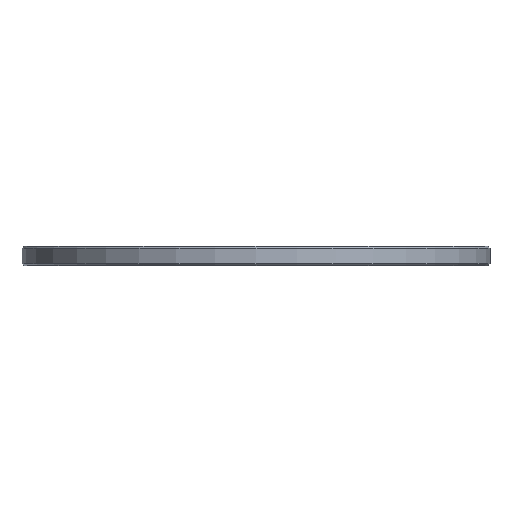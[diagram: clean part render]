
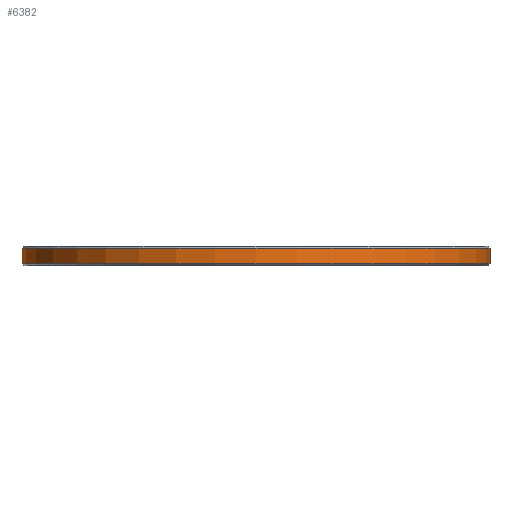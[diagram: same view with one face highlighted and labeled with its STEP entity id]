
A CAD part, front view. The second image highlights one B-rep face of the part: STEP entity #6382.
In plain terms, the highlighted cylindrical face has radius 37.5 mm (diameter 75 mm), a full revolution.
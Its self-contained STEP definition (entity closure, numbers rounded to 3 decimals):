
#71=CYLINDRICAL_SURFACE('',#6788,37.5);
#657=FACE_OUTER_BOUND('',#1028,.T.);
#1028=EDGE_LOOP('',(#5915,#5916,#5917,#5918));
#1118=CIRCLE('',#6787,37.5);
#1119=CIRCLE('',#6789,37.5);
#1923=LINE('',#10182,#2738);
#2738=VECTOR('',#8350,37.5);
#3324=VERTEX_POINT('',#10176);
#3325=VERTEX_POINT('',#10180);
#4190=EDGE_CURVE('',#3324,#3324,#1118,.T.);
#4192=EDGE_CURVE('',#3325,#3325,#1119,.T.);
#4193=EDGE_CURVE('',#3325,#3324,#1923,.T.);
#5915=ORIENTED_EDGE('',*,*,#4192,.F.);
#5916=ORIENTED_EDGE('',*,*,#4193,.T.);
#5917=ORIENTED_EDGE('',*,*,#4190,.F.);
#5918=ORIENTED_EDGE('',*,*,#4193,.F.);
#6382=ADVANCED_FACE('',(#657),#71,.T.);
#6787=AXIS2_PLACEMENT_3D('',#10177,#8343,#8344);
#6788=AXIS2_PLACEMENT_3D('',#10179,#8346,#8347);
#6789=AXIS2_PLACEMENT_3D('',#10181,#8348,#8349);
#8343=DIRECTION('center_axis',(0.,0.,-1.));
#8344=DIRECTION('ref_axis',(1.,0.,0.));
#8346=DIRECTION('center_axis',(0.,0.,1.));
#8347=DIRECTION('ref_axis',(1.,0.,0.));
#8348=DIRECTION('center_axis',(0.,0.,1.));
#8349=DIRECTION('ref_axis',(1.,0.,0.));
#8350=DIRECTION('',(0.,0.,-1.));
#10176=CARTESIAN_POINT('',(-37.5,0.,0.3));
#10177=CARTESIAN_POINT('Origin',(0.,0.,0.3));
#10179=CARTESIAN_POINT('Origin',(0.,0.,0.));
#10180=CARTESIAN_POINT('',(-37.5,0.,2.825));
#10181=CARTESIAN_POINT('Origin',(0.,0.,2.825));
#10182=CARTESIAN_POINT('',(-37.5,0.,0.));
